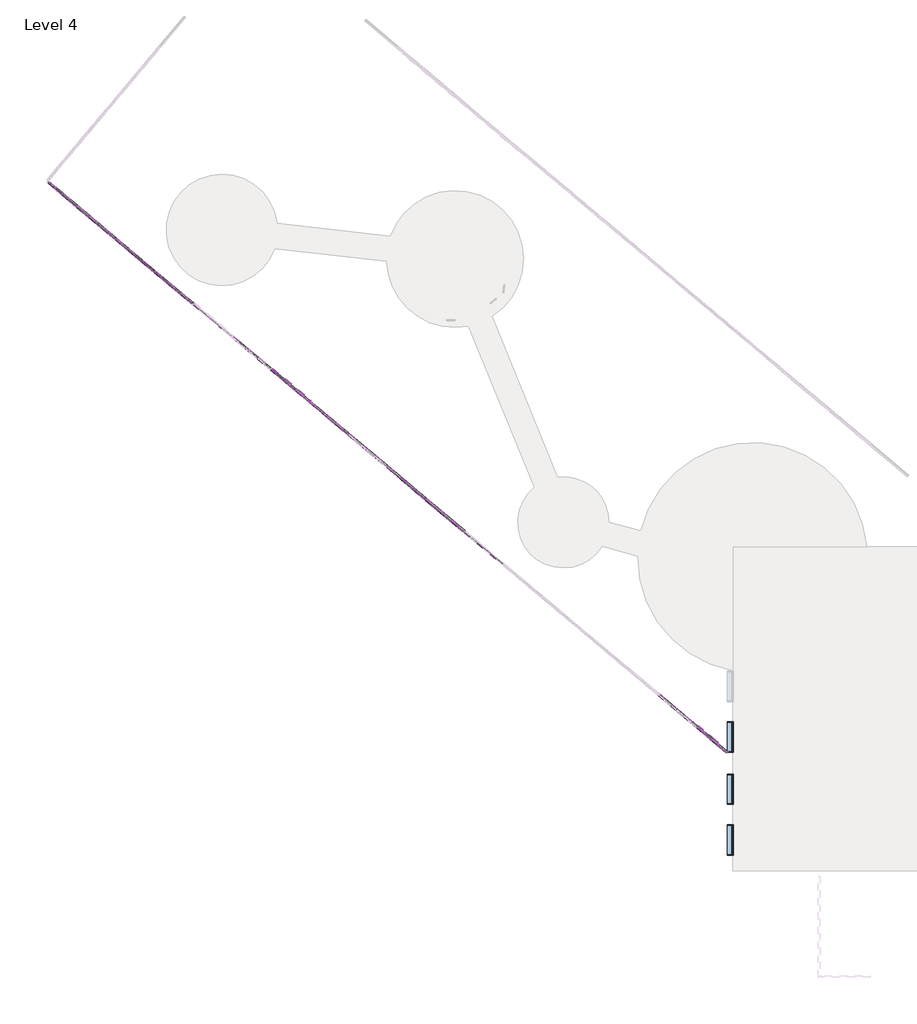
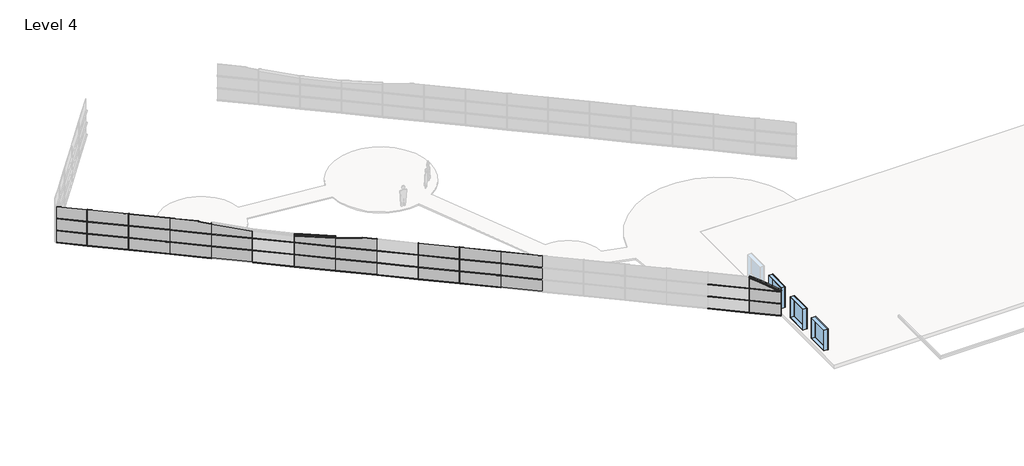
# One storey, part 1 of 4: 75 members, 33 plates, 3 windows.
"""IFC4 building model written with IfcOpenShell, lengths in millimetres."""

from ifc_helpers import new_model, si_unit, origin, place, context, project, spatial, transform, mapped, element, save
from components import member_e6b937b8, member_1b704979, member_245d92fc, member_9d38573e, member_e6a3a933, member_3179f230, member_4b2d0bd8, member_eaba9652, member_6adc840d, member_8e78e238, member_d6eebea3, member_09a87ae0, member_bb8a4726, system_panel_glazed_a2c5a472, system_panel_glazed_5afc4ae2, system_panel_glazed_ccf48815, system_panel_glazed_ab809f82, system_panel_glazed_38bebc52, system_panel_glazed_819572de, system_panel_glazed_9da0f904, system_panel_glazed_20312a47, fixed_6_x_6_52427b03

model = new_model("IFC4")

# Units and contexts
model_context = context("Model", 3, world=origin())
ifc_project = project(units=[si_unit("LENGTHUNIT", "METRE", prefix="MILLI")], contexts=[model_context])

# Site, building, storey
site = spatial("IfcSite", under=ifc_project)
building = spatial("IfcBuilding", under=site)
storey = spatial("IfcBuildingStorey", under=building, Name="Level 4", Elevation=9144.0)

# Members
placement = place(None, origin())
member_shape = member_e6b937b8(model_context)
element("IfcMember", 1, ObjectType="Rectangular Mullion : 1.5\" x 2.5\" rectangular", at=placement, inside=storey, context=model_context, shape_type="MappedRepresentation", body=[
    mapped(member_shape, transform((-19936.684019, -451.3297403, 10400.7444177), x_axis=(-0.76604444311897, 0.6427876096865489, 0.0), y_axis=(-0.6427876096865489, -0.76604444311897, 0.0), z_axis=(0.0, 0.0, 1.0))),
])
element("IfcMember", 2, ObjectType="Rectangular Mullion : 1.5\" x 2.5\" rectangular", at=placement, inside=storey, context=model_context, shape_type="MappedRepresentation", body=[
    mapped(member_shape, transform((-33946.1047947, 11303.9700657, 10400.7444177), x_axis=(-0.76604444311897, 0.6427876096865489, 0.0), y_axis=(-0.6427876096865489, -0.76604444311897, 0.0), z_axis=(0.0, 0.0, 1.0))),
])
element("IfcMember", 3, ObjectType="Rectangular Mullion : 1.5\" x 2.5\" rectangular", at=placement, inside=storey, context=model_context, shape_type="MappedRepresentation", body=[
    mapped(member_shape, transform((-36281.0082574, 13263.1867, 10400.7444177), x_axis=(-0.76604444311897, 0.6427876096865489, 0.0), y_axis=(-0.6427876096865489, -0.76604444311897, 0.0), z_axis=(0.0, 0.0, 1.0))),
])
element("IfcMember", 4, ObjectType="Rectangular Mullion : 1.5\" x 2.5\" rectangular", at=placement, inside=storey, context=model_context, shape_type="MappedRepresentation", body=[
    mapped(member_shape, transform((-38615.91172, 15222.4033343, 10400.7444177), x_axis=(-0.76604444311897, 0.6427876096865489, 0.0), y_axis=(-0.6427876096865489, -0.76604444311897, 0.0), z_axis=(0.0, 0.0, 1.0))),
])
element("IfcMember", 5, ObjectType="Rectangular Mullion : 1.5\" x 2.5\" rectangular", at=placement, inside=storey, context=model_context, shape_type="MappedRepresentation", body=[
    mapped(member_shape, transform((-40950.8151826, 17181.6199687, 10400.7444177), x_axis=(-0.76604444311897, 0.6427876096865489, 0.0), y_axis=(-0.6427876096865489, -0.76604444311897, 0.0), z_axis=(0.0, 0.0, 1.0))),
])
element("IfcMember", 6, ObjectType="Rectangular Mullion : 1.5\" x 2.5\" rectangular", at=placement, inside=storey, context=model_context, shape_type="MappedRepresentation", body=[
    mapped(member_shape, transform((-43285.7186452, 19140.836603, 10400.7444177), x_axis=(-0.76604444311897, 0.6427876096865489, 0.0), y_axis=(-0.6427876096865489, -0.76604444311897, 0.0), z_axis=(0.0, 0.0, 1.0))),
])
element("IfcMember", 7, ObjectType="Rectangular Mullion : 1.5\" x 2.5\" rectangular", at=placement, inside=storey, context=model_context, shape_type="MappedRepresentation", body=[
    mapped(member_shape, transform((-19936.684019, -451.3297403, 11467.5444177), x_axis=(-0.76604444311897, 0.6427876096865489, 0.0), y_axis=(-0.6427876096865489, -0.76604444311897, 0.0), z_axis=(0.0, 0.0, 1.0))),
])
element("IfcMember", 8, ObjectType="Rectangular Mullion : 1.5\" x 2.5\" rectangular", at=placement, inside=storey, context=model_context, shape_type="MappedRepresentation", body=[
    mapped(member_shape, transform((-33946.1047947, 11303.9700657, 11467.5444177), x_axis=(-0.76604444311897, 0.6427876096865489, 0.0), y_axis=(-0.6427876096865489, -0.76604444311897, 0.0), z_axis=(0.0, 0.0, 1.0))),
])
element("IfcMember", 9, ObjectType="Rectangular Mullion : 1.5\" x 2.5\" rectangular", at=placement, inside=storey, context=model_context, shape_type="MappedRepresentation", body=[
    mapped(member_shape, transform((-36281.0082574, 13263.1867, 11467.5444177), x_axis=(-0.76604444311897, 0.6427876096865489, 0.0), y_axis=(-0.6427876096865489, -0.76604444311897, 0.0), z_axis=(0.0, 0.0, 1.0))),
])
element("IfcMember", 10, ObjectType="Rectangular Mullion : 1.5\" x 2.5\" rectangular", at=placement, inside=storey, context=model_context, shape_type="MappedRepresentation", body=[
    mapped(member_shape, transform((-38615.91172, 15222.4033343, 11467.5444177), x_axis=(-0.76604444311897, 0.6427876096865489, 0.0), y_axis=(-0.6427876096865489, -0.76604444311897, 0.0), z_axis=(0.0, 0.0, 1.0))),
])
element("IfcMember", 11, ObjectType="Rectangular Mullion : 1.5\" x 2.5\" rectangular", at=placement, inside=storey, context=model_context, shape_type="MappedRepresentation", body=[
    mapped(member_shape, transform((-33946.1047947, 11303.9700657, 12534.3444177), x_axis=(-0.76604444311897, 0.6427876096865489, 0.0), y_axis=(-0.6427876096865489, -0.76604444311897, 0.0), z_axis=(0.0, 0.0, 1.0))),
])
element("IfcMember", 12, ObjectType="Rectangular Mullion : 1.5\" x 2.5\" rectangular", at=placement, inside=storey, context=model_context, shape_type="MappedRepresentation", body=[
    mapped(member_shape, transform((-36281.0082574, 13263.1867, 12534.3444177), x_axis=(-0.76604444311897, 0.6427876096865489, 0.0), y_axis=(-0.6427876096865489, -0.76604444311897, 0.0), z_axis=(0.0, 0.0, 1.0))),
])
element("IfcMember", 13, ObjectType="Rectangular Mullion : 1.5\" x 2.5\" rectangular", at=placement, inside=storey, context=model_context, shape_type="MappedRepresentation", body=[
    mapped(member_shape, transform((-43285.7186452, 19140.836603, 11467.5444177), x_axis=(-0.76604444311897, 0.6427876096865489, 0.0), y_axis=(-0.6427876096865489, -0.76604444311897, 0.0), z_axis=(0.0, 0.0, 1.0))),
])
element("IfcMember", 14, ObjectType="Rectangular Mullion : 1.5\" x 2.5\" rectangular", at=placement, inside=storey, context=model_context, shape_type="MappedRepresentation", body=[
    mapped(member_shape, transform((-40950.8151826, 17181.6199687, 11467.5444177), x_axis=(-0.76604444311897, 0.6427876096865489, 0.0), y_axis=(-0.6427876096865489, -0.76604444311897, 0.0), z_axis=(0.0, 0.0, 1.0))),
])
element("IfcMember", 15, ObjectType="Rectangular Mullion : 1.5\" x 2.5\" rectangular", at=placement, inside=storey, context=model_context, shape_type="MappedRepresentation", body=[
    mapped(member_shape, transform((-38615.91172, 15222.4033343, 12534.3444177), x_axis=(-0.76604444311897, 0.6427876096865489, 0.0), y_axis=(-0.6427876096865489, -0.76604444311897, 0.0), z_axis=(0.0, 0.0, 1.0))),
])
element("IfcMember", 16, ObjectType="Rectangular Mullion : 1.5\" x 2.5\" rectangular", at=placement, inside=storey, context=model_context, shape_type="MappedRepresentation", body=[
    mapped(member_shape, transform((-40950.8151826, 17181.6199687, 12534.3444177), x_axis=(-0.76604444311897, 0.6427876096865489, 0.0), y_axis=(-0.6427876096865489, -0.76604444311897, 0.0), z_axis=(0.0, 0.0, 1.0))),
])
element("IfcMember", 17, ObjectType="Rectangular Mullion : 1.5\" x 2.5\" rectangular", at=placement, inside=storey, context=model_context, shape_type="MappedRepresentation", body=[
    mapped(member_shape, transform((-45620.6221079, 21100.0532373, 10400.7444177), x_axis=(-0.76604444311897, 0.6427876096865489, 0.0), y_axis=(-0.6427876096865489, -0.76604444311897, 0.0), z_axis=(0.0, 0.0, 1.0))),
])
element("IfcMember", 18, ObjectType="Rectangular Mullion : 1.5\" x 2.5\" rectangular", at=placement, inside=storey, context=model_context, shape_type="MappedRepresentation", body=[
    mapped(member_shape, transform((-50290.4290331, 25018.486506, 10400.7444177), x_axis=(-0.76604444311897, 0.6427876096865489, 0.0), y_axis=(-0.6427876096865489, -0.76604444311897, 0.0), z_axis=(0.0, 0.0, 1.0))),
])
element("IfcMember", 19, ObjectType="Rectangular Mullion : 1.5\" x 2.5\" rectangular", at=placement, inside=storey, context=model_context, shape_type="MappedRepresentation", body=[
    mapped(member_shape, transform((-52625.3324958, 26977.7031403, 10400.7444177), x_axis=(-0.76604444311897, 0.6427876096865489, 0.0), y_axis=(-0.6427876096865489, -0.76604444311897, 0.0), z_axis=(0.0, 0.0, 1.0))),
])
element("IfcMember", 20, ObjectType="Rectangular Mullion : 1.5\" x 2.5\" rectangular", at=placement, inside=storey, context=model_context, shape_type="MappedRepresentation", body=[
    mapped(member_shape, transform((-54960.2359584, 28936.9197746, 10400.7444177), x_axis=(-0.76604444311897, 0.6427876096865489, 0.0), y_axis=(-0.6427876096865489, -0.76604444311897, 0.0), z_axis=(0.0, 0.0, 1.0))),
])
element("IfcMember", 21, ObjectType="Rectangular Mullion : 1.5\" x 2.5\" rectangular", at=placement, inside=storey, context=model_context, shape_type="MappedRepresentation", body=[
    mapped(member_shape, transform((-57295.139421, 30896.1364089, 10400.7444177), x_axis=(-0.76604444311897, 0.6427876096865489, 0.0), y_axis=(-0.6427876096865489, -0.76604444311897, 0.0), z_axis=(0.0, 0.0, 1.0))),
])
element("IfcMember", 22, ObjectType="Rectangular Mullion : 1.5\" x 2.5\" rectangular", at=placement, inside=storey, context=model_context, shape_type="MappedRepresentation", body=[
    mapped(member_shape, transform((-45620.6221079, 21100.0532373, 11467.5444177), x_axis=(-0.76604444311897, 0.6427876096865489, 0.0), y_axis=(-0.6427876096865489, -0.76604444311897, 0.0), z_axis=(0.0, 0.0, 1.0))),
])
element("IfcMember", 23, ObjectType="Rectangular Mullion : 1.5\" x 2.5\" rectangular", at=placement, inside=storey, context=model_context, shape_type="MappedRepresentation", body=[
    mapped(member_shape, transform((-50290.4290331, 25018.486506, 11467.5444177), x_axis=(-0.76604444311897, 0.6427876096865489, 0.0), y_axis=(-0.6427876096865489, -0.76604444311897, 0.0), z_axis=(0.0, 0.0, 1.0))),
])
element("IfcMember", 24, ObjectType="Rectangular Mullion : 1.5\" x 2.5\" rectangular", at=placement, inside=storey, context=model_context, shape_type="MappedRepresentation", body=[
    mapped(member_shape, transform((-52625.3324958, 26977.7031403, 11467.5444177), x_axis=(-0.76604444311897, 0.6427876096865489, 0.0), y_axis=(-0.6427876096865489, -0.76604444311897, 0.0), z_axis=(0.0, 0.0, 1.0))),
])
element("IfcMember", 25, ObjectType="Rectangular Mullion : 1.5\" x 2.5\" rectangular", at=placement, inside=storey, context=model_context, shape_type="MappedRepresentation", body=[
    mapped(member_shape, transform((-54960.2359584, 28936.9197746, 11467.5444177), x_axis=(-0.76604444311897, 0.6427876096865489, 0.0), y_axis=(-0.6427876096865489, -0.76604444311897, 0.0), z_axis=(0.0, 0.0, 1.0))),
])
element("IfcMember", 26, ObjectType="Rectangular Mullion : 1.5\" x 2.5\" rectangular", at=placement, inside=storey, context=model_context, shape_type="MappedRepresentation", body=[
    mapped(member_shape, transform((-57295.139421, 30896.1364089, 11467.5444177), x_axis=(-0.76604444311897, 0.6427876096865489, 0.0), y_axis=(-0.6427876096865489, -0.76604444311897, 0.0), z_axis=(0.0, 0.0, 1.0))),
])
element("IfcMember", 27, ObjectType="Rectangular Mullion : 1.5\" x 2.5\" rectangular", at=placement, inside=storey, context=model_context, shape_type="MappedRepresentation", body=[
    mapped(member_shape, transform((-52625.3324958, 26977.7031403, 12534.3444177), x_axis=(-0.76604444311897, 0.6427876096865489, 0.0), y_axis=(-0.6427876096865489, -0.76604444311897, 0.0), z_axis=(0.0, 0.0, 1.0))),
])
element("IfcMember", 28, ObjectType="Rectangular Mullion : 1.5\" x 2.5\" rectangular", at=placement, inside=storey, context=model_context, shape_type="MappedRepresentation", body=[
    mapped(member_shape, transform((-54960.2359584, 28936.9197746, 12534.3444177), x_axis=(-0.76604444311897, 0.6427876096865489, 0.0), y_axis=(-0.6427876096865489, -0.76604444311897, 0.0), z_axis=(0.0, 0.0, 1.0))),
])
element("IfcMember", 29, ObjectType="Rectangular Mullion : 1.5\" x 2.5\" rectangular", at=placement, inside=storey, context=model_context, shape_type="MappedRepresentation", body=[
    mapped(member_shape, transform((-57295.139421, 30896.1364089, 12534.3444177), x_axis=(-0.76604444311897, 0.6427876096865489, 0.0), y_axis=(-0.6427876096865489, -0.76604444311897, 0.0), z_axis=(0.0, 0.0, 1.0))),
])
member_2_shape = member_1b704979(model_context)
element("IfcMember", 30, ObjectType="Rectangular Mullion : 1.5\" x 2.5\" rectangular", at=placement, inside=storey, context=model_context, shape_type="MappedRepresentation", body=[
    mapped(member_2_shape, transform((-18129.5386573, -1967.7047467, 9365.6944177), x_axis=(0.76604444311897, -0.6427876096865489, 0.0), y_axis=(-0.6427876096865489, -0.76604444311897, 0.0), z_axis=(0.0, 0.0, -1.0))),
])
element("IfcMember", 31, ObjectType="Rectangular Mullion : 1.5\" x 2.5\" rectangular", at=placement, inside=storey, context=model_context, shape_type="MappedRepresentation", body=[
    mapped(member_2_shape, transform((-18129.5386573, -1967.7047467, 10432.4944177), x_axis=(0.76604444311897, -0.6427876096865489, 0.0), y_axis=(-0.6427876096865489, -0.76604444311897, 0.0), z_axis=(0.0, 0.0, -1.0))),
])
member_3_shape = member_245d92fc(model_context)
element("IfcMember", 32, ObjectType="Rectangular Mullion : 1.5\" x 2.5\" rectangular", at=placement, inside=storey, context=model_context, shape_type="MappedRepresentation", body=[
    mapped(member_3_shape, transform((-19936.684019, -451.3297403, 12504.5952808), x_axis=(-0.76604444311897, 0.6427876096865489, 0.0), y_axis=(-0.6427876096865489, -0.76604444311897, 0.0), z_axis=(0.0, 0.0, 1.0))),
])
member_4_shape = member_9d38573e(model_context)
element("IfcMember", 33, ObjectType="Rectangular Mullion : 1.5\" x 2.5\" rectangular", at=placement, inside=storey, context=model_context, shape_type="MappedRepresentation", body=[
    mapped(member_4_shape, transform((-45620.6221079, 21100.0532373, 12145.301661), x_axis=(-0.76604444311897, 0.6427876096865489, 0.0), y_axis=(-0.6427876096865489, -0.76604444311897, 0.0), z_axis=(0.0, 0.0, 1.0))),
])
member_5_shape = member_e6a3a933(model_context)
element("IfcMember", 34, ObjectType="Rectangular Mullion : 1.5\" x 2.5\" rectangular", at=placement, inside=storey, context=model_context, shape_type="MappedRepresentation", body=[
    mapped(member_5_shape, transform((-50290.4290331, 25018.486506, 12440.8181166), x_axis=(-0.76604444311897, 0.6427876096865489, 0.0), y_axis=(-0.6427876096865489, -0.76604444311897, 0.0), z_axis=(0.0, 0.0, 1.0))),
])
member_6_shape = member_3179f230(model_context)
element("IfcMember", 35, ObjectType="Rectangular Mullion : 1.5\" x 2.5\" rectangular", at=placement, inside=storey, context=model_context, shape_type="MappedRepresentation", body=[
    mapped(member_6_shape, transform((-18129.5386573, -1967.7047467, 11499.2944177), x_axis=(0.76604444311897, -0.6427876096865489, 0.0), y_axis=(-0.6427876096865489, -0.76604444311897, 0.0), z_axis=(0.0, 0.0, -1.0))),
])
member_7_shape = member_4b2d0bd8(model_context)
element("IfcMember", 36, ObjectType="Rectangular Mullion : 1.5\" x 2.5\" rectangular", at=placement, inside=storey, context=model_context, shape_type="MappedRepresentation", body=[
    mapped(member_7_shape, transform((-43285.7186452, 19140.836603, 12327.8399175), x_axis=(-0.76604444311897, 0.6427876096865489, 0.0), y_axis=(-0.6427876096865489, -0.76604444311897, 0.0), z_axis=(0.0, 0.0, 1.0))),
])
member_8_shape = member_eaba9652(model_context)
element("IfcMember", 37, ObjectType="Rectangular Mullion : 2.5\" x 5\" rectangular", at=placement, inside=storey, context=model_context, shape_type="MappedRepresentation", body=[
    mapped(member_8_shape, transform((-19936.684019, -451.3297403, 9365.6944177), x_axis=(0.0, 0.0, 1.0), y_axis=(-0.6427876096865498, -0.7660444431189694, 0.0), z_axis=(0.7660444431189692, -0.6427876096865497, 0.0))),
])
element("IfcMember", 38, ObjectType="Rectangular Mullion : 2.5\" x 5\" rectangular", at=placement, inside=storey, context=model_context, shape_type="MappedRepresentation", body=[
    mapped(member_8_shape, transform((-33946.1047947, 11303.9700657, 9365.6944177), x_axis=(0.0, 0.0, 1.0), y_axis=(-0.642787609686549, -0.76604444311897, 0.0), z_axis=(0.7660444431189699, -0.6427876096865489, 0.0))),
])
element("IfcMember", 39, ObjectType="Rectangular Mullion : 2.5\" x 5\" rectangular", at=placement, inside=storey, context=model_context, shape_type="MappedRepresentation", body=[
    mapped(member_8_shape, transform((-36281.0082574, 13263.1867, 9365.6944177), x_axis=(0.0, 0.0, 1.0), y_axis=(-0.642787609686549, -0.76604444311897, 0.0), z_axis=(0.7660444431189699, -0.6427876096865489, 0.0))),
])
element("IfcMember", 40, ObjectType="Rectangular Mullion : 2.5\" x 5\" rectangular", at=placement, inside=storey, context=model_context, shape_type="MappedRepresentation", body=[
    mapped(member_8_shape, transform((-38615.91172, 15222.4033343, 9365.6944177), x_axis=(0.0, 0.0, 1.0), y_axis=(-0.642787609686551, -0.7660444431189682, 0.0), z_axis=(0.7660444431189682, -0.642787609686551, 0.0))),
])
element("IfcMember", 41, ObjectType="Rectangular Mullion : 2.5\" x 5\" rectangular", at=placement, inside=storey, context=model_context, shape_type="MappedRepresentation", body=[
    mapped(member_8_shape, transform((-40950.8151826, 17181.6199687, 9365.6944177), x_axis=(0.0, 0.0, 1.0), y_axis=(-0.642787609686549, -0.76604444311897, 0.0), z_axis=(0.7660444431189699, -0.6427876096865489, 0.0))),
])
element("IfcMember", 42, ObjectType="Rectangular Mullion : 2.5\" x 5\" rectangular", at=placement, inside=storey, context=model_context, shape_type="MappedRepresentation", body=[
    mapped(member_8_shape, transform((-43285.7186452, 19140.836603, 9365.6944177), x_axis=(0.0, 0.0, 1.0), y_axis=(-0.6427876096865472, -0.7660444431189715, 0.0), z_axis=(0.7660444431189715, -0.6427876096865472, 0.0))),
])
element("IfcMember", 43, ObjectType="Rectangular Mullion : 2.5\" x 5\" rectangular", at=placement, inside=storey, context=model_context, shape_type="MappedRepresentation", body=[
    mapped(member_8_shape, transform((-19936.684019, -451.3297403, 10432.4944177), x_axis=(0.0, 0.0, 1.0), y_axis=(-0.6427876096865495, -0.7660444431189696, 0.0), z_axis=(0.7660444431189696, -0.6427876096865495, 0.0))),
])
element("IfcMember", 44, ObjectType="Rectangular Mullion : 2.5\" x 5\" rectangular", at=placement, inside=storey, context=model_context, shape_type="MappedRepresentation", body=[
    mapped(member_8_shape, transform((-33946.1047947, 11303.9700657, 10432.4944177), x_axis=(0.0, 0.0, 1.0), y_axis=(-0.642787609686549, -0.76604444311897, 0.0), z_axis=(0.7660444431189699, -0.6427876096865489, 0.0))),
])
element("IfcMember", 45, ObjectType="Rectangular Mullion : 2.5\" x 5\" rectangular", at=placement, inside=storey, context=model_context, shape_type="MappedRepresentation", body=[
    mapped(member_8_shape, transform((-36281.0082574, 13263.1867, 10432.4944177), x_axis=(0.0, 0.0, 1.0), y_axis=(-0.6427876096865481, -0.7660444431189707, 0.0), z_axis=(0.7660444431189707, -0.6427876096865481, 0.0))),
])
element("IfcMember", 46, ObjectType="Rectangular Mullion : 2.5\" x 5\" rectangular", at=placement, inside=storey, context=model_context, shape_type="MappedRepresentation", body=[
    mapped(member_8_shape, transform((-38615.91172, 15222.4033343, 10432.4944177), x_axis=(0.0, 0.0, 1.0), y_axis=(-0.6427876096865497, -0.7660444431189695, 0.0), z_axis=(0.7660444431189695, -0.6427876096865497, 0.0))),
])
element("IfcMember", 47, ObjectType="Rectangular Mullion : 2.5\" x 5\" rectangular", at=placement, inside=storey, context=model_context, shape_type="MappedRepresentation", body=[
    mapped(member_8_shape, transform((-40950.8151826, 17181.6199687, 10432.4944177), x_axis=(0.0, 0.0, 1.0), y_axis=(-0.64278760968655, -0.766044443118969, 0.0), z_axis=(0.766044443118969, -0.64278760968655, 0.0))),
])
element("IfcMember", 48, ObjectType="Rectangular Mullion : 2.5\" x 5\" rectangular", at=placement, inside=storey, context=model_context, shape_type="MappedRepresentation", body=[
    mapped(member_8_shape, transform((-43285.7186452, 19140.836603, 10432.4944177), x_axis=(0.0, 0.0, 1.0), y_axis=(-0.642787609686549, -0.76604444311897, 0.0), z_axis=(0.7660444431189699, -0.6427876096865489, 0.0))),
])
element("IfcMember", 49, ObjectType="Rectangular Mullion : 2.5\" x 5\" rectangular", at=placement, inside=storey, context=model_context, shape_type="MappedRepresentation", body=[
    mapped(member_8_shape, transform((-19936.684019, -451.3297403, 11499.2944177), x_axis=(0.0, 0.0, 1.0), y_axis=(-0.6427876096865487, -0.7660444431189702, 0.0), z_axis=(0.7660444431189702, -0.6427876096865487, 0.0))),
])
element("IfcMember", 50, ObjectType="Rectangular Mullion : 2.5\" x 5\" rectangular", at=placement, inside=storey, context=model_context, shape_type="MappedRepresentation", body=[
    mapped(member_8_shape, transform((-33946.1047947, 11303.9700657, 11499.2944177), x_axis=(0.0, 0.0, 1.0), y_axis=(-0.6427876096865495, -0.7660444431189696, 0.0), z_axis=(0.7660444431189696, -0.6427876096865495, 0.0))),
])
element("IfcMember", 51, ObjectType="Rectangular Mullion : 2.5\" x 5\" rectangular", at=placement, inside=storey, context=model_context, shape_type="MappedRepresentation", body=[
    mapped(member_8_shape, transform((-36281.0082574, 13263.1867, 11499.2944177), x_axis=(0.0, 0.0, 1.0), y_axis=(-0.6427876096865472, -0.7660444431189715, 0.0), z_axis=(0.7660444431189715, -0.6427876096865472, 0.0))),
])
element("IfcMember", 52, ObjectType="Rectangular Mullion : 2.5\" x 5\" rectangular", at=placement, inside=storey, context=model_context, shape_type="MappedRepresentation", body=[
    mapped(member_8_shape, transform((-38615.91172, 15222.4033343, 11499.2944177), x_axis=(0.0, 0.0, 1.0), y_axis=(-0.6427876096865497, -0.7660444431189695, 0.0), z_axis=(0.7660444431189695, -0.6427876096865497, 0.0))),
])
element("IfcMember", 53, ObjectType="Rectangular Mullion : 2.5\" x 5\" rectangular", at=placement, inside=storey, context=model_context, shape_type="MappedRepresentation", body=[
    mapped(member_8_shape, transform((-40950.8151826, 17181.6199687, 11499.2944177), x_axis=(0.0, 0.0, 1.0), y_axis=(-0.64278760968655, -0.766044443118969, 0.0), z_axis=(0.766044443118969, -0.64278760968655, 0.0))),
])
element("IfcMember", 54, ObjectType="Rectangular Mullion : 2.5\" x 5\" rectangular", at=placement, inside=storey, context=model_context, shape_type="MappedRepresentation", body=[
    mapped(member_8_shape, transform((-43285.7186452, 19140.836603, 11499.2944177), x_axis=(0.0, 0.0, 1.0), y_axis=(-0.6427876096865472, -0.7660444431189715, 0.0), z_axis=(0.7660444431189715, -0.6427876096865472, 0.0))),
])
element("IfcMember", 55, ObjectType="Rectangular Mullion : 2.5\" x 5\" rectangular", at=placement, inside=storey, context=model_context, shape_type="MappedRepresentation", body=[
    mapped(member_8_shape, transform((-45620.6221079, 21100.0532373, 9365.6944177), x_axis=(0.0, 0.0, 1.0), y_axis=(-0.64278760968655, -0.766044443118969, 0.0), z_axis=(0.766044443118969, -0.64278760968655, 0.0))),
])
element("IfcMember", 56, ObjectType="Rectangular Mullion : 2.5\" x 5\" rectangular", at=placement, inside=storey, context=model_context, shape_type="MappedRepresentation", body=[
    mapped(member_8_shape, transform((-50290.4290331, 25018.486506, 9365.6944177), x_axis=(0.0, 0.0, 1.0), y_axis=(-0.6427876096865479, -0.7660444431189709, 0.0), z_axis=(0.7660444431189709, -0.6427876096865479, 0.0))),
])
element("IfcMember", 57, ObjectType="Rectangular Mullion : 2.5\" x 5\" rectangular", at=placement, inside=storey, context=model_context, shape_type="MappedRepresentation", body=[
    mapped(member_8_shape, transform((-52625.3324958, 26977.7031403, 9365.6944177), x_axis=(0.0, 0.0, 1.0), y_axis=(-0.6427876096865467, -0.7660444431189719, 0.0), z_axis=(0.7660444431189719, -0.6427876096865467, 0.0))),
])
element("IfcMember", 58, ObjectType="Rectangular Mullion : 2.5\" x 5\" rectangular", at=placement, inside=storey, context=model_context, shape_type="MappedRepresentation", body=[
    mapped(member_8_shape, transform((-54960.2359584, 28936.9197746, 9365.6944177), x_axis=(0.0, 0.0, 1.0), y_axis=(-0.6427876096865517, -0.7660444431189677, 0.0), z_axis=(0.7660444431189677, -0.6427876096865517, 0.0))),
])
element("IfcMember", 59, ObjectType="Rectangular Mullion : 2.5\" x 5\" rectangular", at=placement, inside=storey, context=model_context, shape_type="MappedRepresentation", body=[
    mapped(member_8_shape, transform((-45620.6221079, 21100.0532373, 10432.4944177), x_axis=(0.0, 0.0, 1.0), y_axis=(-0.642787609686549, -0.76604444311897, 0.0), z_axis=(0.7660444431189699, -0.6427876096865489, 0.0))),
])
element("IfcMember", 60, ObjectType="Rectangular Mullion : 2.5\" x 5\" rectangular", at=placement, inside=storey, context=model_context, shape_type="MappedRepresentation", body=[
    mapped(member_8_shape, transform((-50290.4290331, 25018.486506, 10432.4944177), x_axis=(0.0, 0.0, 1.0), y_axis=(-0.6427876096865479, -0.7660444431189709, 0.0), z_axis=(0.7660444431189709, -0.6427876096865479, 0.0))),
])
element("IfcMember", 61, ObjectType="Rectangular Mullion : 2.5\" x 5\" rectangular", at=placement, inside=storey, context=model_context, shape_type="MappedRepresentation", body=[
    mapped(member_8_shape, transform((-52625.3324958, 26977.7031403, 10432.4944177), x_axis=(0.0, 0.0, 1.0), y_axis=(-0.6427876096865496, -0.7660444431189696, 0.0), z_axis=(0.7660444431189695, -0.6427876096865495, 0.0))),
])
element("IfcMember", 62, ObjectType="Rectangular Mullion : 2.5\" x 5\" rectangular", at=placement, inside=storey, context=model_context, shape_type="MappedRepresentation", body=[
    mapped(member_8_shape, transform((-54960.2359584, 28936.9197746, 10432.4944177), x_axis=(0.0, 0.0, 1.0), y_axis=(-0.642787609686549, -0.76604444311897, 0.0), z_axis=(0.7660444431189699, -0.6427876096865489, 0.0))),
])
element("IfcMember", 63, ObjectType="Rectangular Mullion : 2.5\" x 5\" rectangular", at=placement, inside=storey, context=model_context, shape_type="MappedRepresentation", body=[
    mapped(member_8_shape, transform((-45620.6221079, 21100.0532373, 11499.2944177), x_axis=(0.0, 0.0, 1.0), y_axis=(-0.642787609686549, -0.76604444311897, 0.0), z_axis=(0.7660444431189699, -0.6427876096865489, 0.0))),
])
element("IfcMember", 64, ObjectType="Rectangular Mullion : 2.5\" x 5\" rectangular", at=placement, inside=storey, context=model_context, shape_type="MappedRepresentation", body=[
    mapped(member_8_shape, transform((-50290.4290331, 25018.486506, 11499.2944177), x_axis=(0.0, 0.0, 1.0), y_axis=(-0.6427876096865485, -0.7660444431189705, 0.0), z_axis=(0.7660444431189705, -0.6427876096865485, 0.0))),
])
element("IfcMember", 65, ObjectType="Rectangular Mullion : 2.5\" x 5\" rectangular", at=placement, inside=storey, context=model_context, shape_type="MappedRepresentation", body=[
    mapped(member_8_shape, transform((-52625.3324958, 26977.7031403, 11499.2944177), x_axis=(0.0, 0.0, 1.0), y_axis=(-0.642787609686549, -0.76604444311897, 0.0), z_axis=(0.7660444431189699, -0.6427876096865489, 0.0))),
])
element("IfcMember", 66, ObjectType="Rectangular Mullion : 2.5\" x 5\" rectangular", at=placement, inside=storey, context=model_context, shape_type="MappedRepresentation", body=[
    mapped(member_8_shape, transform((-54960.2359584, 28936.9197746, 11499.2944177), x_axis=(0.0, 0.0, 1.0), y_axis=(-0.642787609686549, -0.76604444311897, 0.0), z_axis=(0.7660444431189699, -0.6427876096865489, 0.0))),
])
member_9_shape = member_6adc840d(model_context)
element("IfcMember", 67, ObjectType="Rectangular Mullion : 2.5\" x 5\" rectangular", at=placement, inside=storey, context=model_context, shape_type="MappedRepresentation", body=[
    mapped(member_9_shape, transform((-18158.7249506, -1943.2145388, 9365.6944177), x_axis=(0.0, 0.0, 1.0), y_axis=(-0.6427876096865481, -0.7660444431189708, 0.0), z_axis=(0.7660444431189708, -0.6427876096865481, 0.0))),
])
element("IfcMember", 68, ObjectType="Rectangular Mullion : 2.5\" x 5\" rectangular", at=placement, inside=storey, context=model_context, shape_type="MappedRepresentation", body=[
    mapped(member_9_shape, transform((-18158.7249506, -1943.2145388, 10432.4944177), x_axis=(0.0, 0.0, 1.0), y_axis=(-0.6427876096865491, -0.7660444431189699, 0.0), z_axis=(0.7660444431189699, -0.6427876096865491, 0.0))),
])
element("IfcMember", 69, ObjectType="Rectangular Mullion : 2.5\" x 5\" rectangular", at=placement, inside=storey, context=model_context, shape_type="MappedRepresentation", body=[
    mapped(member_9_shape, transform((-18158.7249506, -1943.2145388, 11499.2944177), x_axis=(0.0, 0.0, 1.0), y_axis=(-0.6427876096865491, -0.7660444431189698, 0.0), z_axis=(0.7660444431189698, -0.6427876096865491, 0.0))),
])
member_10_shape = member_8e78e238(model_context)
element("IfcMember", 70, ObjectType="Rectangular Mullion : 2.5\" x 5\" rectangular", at=placement, inside=storey, context=model_context, shape_type="MappedRepresentation", body=[
    mapped(member_10_shape, transform((-57295.139421, 30896.1364089, 9365.6944177), x_axis=(0.0, 0.0, 1.0), y_axis=(-0.6427876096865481, -0.7660444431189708, 0.0), z_axis=(0.7660444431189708, -0.6427876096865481, 0.0))),
])
element("IfcMember", 71, ObjectType="Rectangular Mullion : 2.5\" x 5\" rectangular", at=placement, inside=storey, context=model_context, shape_type="MappedRepresentation", body=[
    mapped(member_10_shape, transform((-57295.139421, 30896.1364089, 10432.4944177), x_axis=(0.0, 0.0, 1.0), y_axis=(-0.6427876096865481, -0.7660444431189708, 0.0), z_axis=(0.7660444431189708, -0.6427876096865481, 0.0))),
])
element("IfcMember", 72, ObjectType="Rectangular Mullion : 2.5\" x 5\" rectangular", at=placement, inside=storey, context=model_context, shape_type="MappedRepresentation", body=[
    mapped(member_10_shape, transform((-57295.139421, 30896.1364089, 11499.2944177), x_axis=(0.0, 0.0, 1.0), y_axis=(-0.6427876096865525, -0.7660444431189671, 0.0), z_axis=(0.7660444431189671, -0.6427876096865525, 0.0))),
])
member_11_shape = member_d6eebea3(model_context)
element("IfcMember", 73, ObjectType="V Corner Mullion : 5\" V Corner", at=placement, inside=storey, context=model_context, shape_type="MappedRepresentation", body=[
    mapped(member_11_shape, transform((-18129.5386573, -1967.7047467, 11528.4454611), x_axis=(0.3013718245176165, -0.25288098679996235, 0.919361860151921), y_axis=(-0.6427876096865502, -0.766044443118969, 0.0), z_axis=(0.7042720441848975, -0.5909544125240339, -0.393412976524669))),
])
member_12_shape = member_09a87ae0(model_context)
element("IfcMember", 74, ObjectType="V Corner Mullion : 5\" V Corner", at=placement, inside=storey, context=model_context, shape_type="MappedRepresentation", body=[
    mapped(member_12_shape, transform((-19280.8778687, -1001.6164391, 12171.5943549), x_axis=(0.2777045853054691, -0.2330218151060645, 0.9319769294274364), y_axis=(-0.6427876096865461, -0.7660444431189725, 0.0), z_axis=(0.7139357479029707, -0.5990632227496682, -0.36251758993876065))),
])
member_13_shape = member_bb8a4726(model_context)
element("IfcMember", 75, ObjectType="V Corner Mullion : 5\" V Corner", at=placement, inside=storey, context=model_context, shape_type="MappedRepresentation", body=[
    mapped(member_13_shape, transform((-43285.7186452, 19140.836603, 12327.8399175), x_axis=(-0.04579472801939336, 0.03842633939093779, 0.9982115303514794), y_axis=(-0.6427876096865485, -0.7660444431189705, 0.0), z_axis=(0.7646743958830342, -0.6416380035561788, 0.05978077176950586))),
])

# Plates
system_panel_glazed_shape = system_panel_glazed_a2c5a472(model_context)
element("IfcPlate", 76, ObjectType="System Panel : Glazed", at=placement, inside=storey, context=model_context, shape_type="MappedRepresentation", body=[
    mapped(system_panel_glazed_shape, transform((-32778.6530634, 10324.3617485, 9397.4444177), x_axis=(-0.76604444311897, 0.6427876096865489, 0.0), y_axis=(-0.6427876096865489, -0.76604444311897, 0.0), z_axis=(0.0, 0.0, 1.0))),
])
element("IfcPlate", 77, ObjectType="System Panel : Glazed", at=placement, inside=storey, context=model_context, shape_type="MappedRepresentation", body=[
    mapped(system_panel_glazed_shape, transform((-35113.5565261, 12283.5783829, 9397.4444177), x_axis=(-0.76604444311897, 0.6427876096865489, 0.0), y_axis=(-0.6427876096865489, -0.76604444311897, 0.0), z_axis=(0.0, 0.0, 1.0))),
])
element("IfcPlate", 78, ObjectType="System Panel : Glazed", at=placement, inside=storey, context=model_context, shape_type="MappedRepresentation", body=[
    mapped(system_panel_glazed_shape, transform((-37448.4599887, 14242.7950172, 9397.4444177), x_axis=(-0.76604444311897, 0.6427876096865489, 0.0), y_axis=(-0.6427876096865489, -0.76604444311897, 0.0), z_axis=(0.0, 0.0, 1.0))),
])
element("IfcPlate", 79, ObjectType="System Panel : Glazed", at=placement, inside=storey, context=model_context, shape_type="MappedRepresentation", body=[
    mapped(system_panel_glazed_shape, transform((-42118.2669139, 18161.2282858, 9397.4444177), x_axis=(-0.76604444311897, 0.6427876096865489, 0.0), y_axis=(-0.6427876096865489, -0.76604444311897, 0.0), z_axis=(0.0, 0.0, 1.0))),
])
element("IfcPlate", 80, ObjectType="System Panel : Glazed", at=placement, inside=storey, context=model_context, shape_type="MappedRepresentation", body=[
    mapped(system_panel_glazed_shape, transform((-44453.1703766, 20120.4449202, 9397.4444177), x_axis=(-0.76604444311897, 0.6427876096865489, 0.0), y_axis=(-0.6427876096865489, -0.76604444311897, 0.0), z_axis=(0.0, 0.0, 1.0))),
])
element("IfcPlate", 81, ObjectType="System Panel : Glazed", at=placement, inside=storey, context=model_context, shape_type="MappedRepresentation", body=[
    mapped(system_panel_glazed_shape, transform((-32778.6530634, 10324.3617485, 10464.2444177), x_axis=(-0.76604444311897, 0.6427876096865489, 0.0), y_axis=(-0.6427876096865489, -0.76604444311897, 0.0), z_axis=(0.0, 0.0, 1.0))),
])
element("IfcPlate", 82, ObjectType="System Panel : Glazed", at=placement, inside=storey, context=model_context, shape_type="MappedRepresentation", body=[
    mapped(system_panel_glazed_shape, transform((-35113.5565261, 12283.5783829, 10464.2444177), x_axis=(-0.76604444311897, 0.6427876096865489, 0.0), y_axis=(-0.6427876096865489, -0.76604444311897, 0.0), z_axis=(0.0, 0.0, 1.0))),
])
element("IfcPlate", 83, ObjectType="System Panel : Glazed", at=placement, inside=storey, context=model_context, shape_type="MappedRepresentation", body=[
    mapped(system_panel_glazed_shape, transform((-37448.4599887, 14242.7950172, 10464.2444177), x_axis=(-0.76604444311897, 0.6427876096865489, 0.0), y_axis=(-0.6427876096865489, -0.76604444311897, 0.0), z_axis=(0.0, 0.0, 1.0))),
])
element("IfcPlate", 84, ObjectType="System Panel : Glazed", at=placement, inside=storey, context=model_context, shape_type="MappedRepresentation", body=[
    mapped(system_panel_glazed_shape, transform((-42118.2669139, 18161.2282858, 10464.2444177), x_axis=(-0.76604444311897, 0.6427876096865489, 0.0), y_axis=(-0.6427876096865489, -0.76604444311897, 0.0), z_axis=(0.0, 0.0, 1.0))),
])
element("IfcPlate", 85, ObjectType="System Panel : Glazed", at=placement, inside=storey, context=model_context, shape_type="MappedRepresentation", body=[
    mapped(system_panel_glazed_shape, transform((-44453.1703766, 20120.4449202, 10464.2444177), x_axis=(-0.76604444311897, 0.6427876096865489, 0.0), y_axis=(-0.6427876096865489, -0.76604444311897, 0.0), z_axis=(0.0, 0.0, 1.0))),
])
element("IfcPlate", 86, ObjectType="System Panel : Glazed", at=placement, inside=storey, context=model_context, shape_type="MappedRepresentation", body=[
    mapped(system_panel_glazed_shape, transform((-32778.6530634, 10324.3617485, 11531.0444177), x_axis=(-0.76604444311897, 0.6427876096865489, 0.0), y_axis=(-0.6427876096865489, -0.76604444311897, 0.0), z_axis=(0.0, 0.0, 1.0))),
])
element("IfcPlate", 87, ObjectType="System Panel : Glazed", at=placement, inside=storey, context=model_context, shape_type="MappedRepresentation", body=[
    mapped(system_panel_glazed_shape, transform((-35113.5565261, 12283.5783829, 11531.0444177), x_axis=(-0.76604444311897, 0.6427876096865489, 0.0), y_axis=(-0.6427876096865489, -0.76604444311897, 0.0), z_axis=(0.0, 0.0, 1.0))),
])
element("IfcPlate", 88, ObjectType="System Panel : Glazed", at=placement, inside=storey, context=model_context, shape_type="MappedRepresentation", body=[
    mapped(system_panel_glazed_shape, transform((-37448.4599887, 14242.7950172, 11531.0444177), x_axis=(-0.76604444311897, 0.6427876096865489, 0.0), y_axis=(-0.6427876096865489, -0.76604444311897, 0.0), z_axis=(0.0, 0.0, 1.0))),
])
element("IfcPlate", 89, ObjectType="System Panel : Glazed", at=placement, inside=storey, context=model_context, shape_type="MappedRepresentation", body=[
    mapped(system_panel_glazed_shape, transform((-49122.9773018, 24038.8781888, 9397.4444177), x_axis=(-0.76604444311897, 0.6427876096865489, 0.0), y_axis=(-0.6427876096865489, -0.76604444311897, 0.0), z_axis=(0.0, 0.0, 1.0))),
])
element("IfcPlate", 90, ObjectType="System Panel : Glazed", at=placement, inside=storey, context=model_context, shape_type="MappedRepresentation", body=[
    mapped(system_panel_glazed_shape, transform((-49122.9773018, 24038.8781888, 10464.2444177), x_axis=(-0.76604444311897, 0.6427876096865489, 0.0), y_axis=(-0.6427876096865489, -0.76604444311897, 0.0), z_axis=(0.0, 0.0, 1.0))),
])
element("IfcPlate", 91, ObjectType="System Panel : Glazed", at=placement, inside=storey, context=model_context, shape_type="MappedRepresentation", body=[
    mapped(system_panel_glazed_shape, transform((-51457.8807644, 25998.0948231, 9397.4444177), x_axis=(-0.76604444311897, 0.6427876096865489, 0.0), y_axis=(-0.6427876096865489, -0.76604444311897, 0.0), z_axis=(0.0, 0.0, 1.0))),
])
element("IfcPlate", 92, ObjectType="System Panel : Glazed", at=placement, inside=storey, context=model_context, shape_type="MappedRepresentation", body=[
    mapped(system_panel_glazed_shape, transform((-51457.8807644, 25998.0948231, 10464.2444177), x_axis=(-0.76604444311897, 0.6427876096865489, 0.0), y_axis=(-0.6427876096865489, -0.76604444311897, 0.0), z_axis=(0.0, 0.0, 1.0))),
])
element("IfcPlate", 93, ObjectType="System Panel : Glazed", at=placement, inside=storey, context=model_context, shape_type="MappedRepresentation", body=[
    mapped(system_panel_glazed_shape, transform((-53792.7842271, 27957.3114575, 9397.4444177), x_axis=(-0.76604444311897, 0.6427876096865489, 0.0), y_axis=(-0.6427876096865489, -0.76604444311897, 0.0), z_axis=(0.0, 0.0, 1.0))),
])
element("IfcPlate", 94, ObjectType="System Panel : Glazed", at=placement, inside=storey, context=model_context, shape_type="MappedRepresentation", body=[
    mapped(system_panel_glazed_shape, transform((-53792.7842271, 27957.3114575, 10464.2444177), x_axis=(-0.76604444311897, 0.6427876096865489, 0.0), y_axis=(-0.6427876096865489, -0.76604444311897, 0.0), z_axis=(0.0, 0.0, 1.0))),
])
element("IfcPlate", 95, ObjectType="System Panel : Glazed", at=placement, inside=storey, context=model_context, shape_type="MappedRepresentation", body=[
    mapped(system_panel_glazed_shape, transform((-53792.7842271, 27957.3114575, 11531.0444177), x_axis=(-0.76604444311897, 0.6427876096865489, 0.0), y_axis=(-0.6427876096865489, -0.76604444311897, 0.0), z_axis=(0.0, 0.0, 1.0))),
])
element("IfcPlate", 96, ObjectType="System Panel : Glazed", at=placement, inside=storey, context=model_context, shape_type="MappedRepresentation", body=[
    mapped(system_panel_glazed_shape, transform((-56127.6876897, 29916.5280918, 9397.4444177), x_axis=(-0.76604444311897, 0.6427876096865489, 0.0), y_axis=(-0.6427876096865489, -0.76604444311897, 0.0), z_axis=(0.0, 0.0, 1.0))),
])
element("IfcPlate", 97, ObjectType="System Panel : Glazed", at=placement, inside=storey, context=model_context, shape_type="MappedRepresentation", body=[
    mapped(system_panel_glazed_shape, transform((-56127.6876897, 29916.5280918, 10464.2444177), x_axis=(-0.76604444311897, 0.6427876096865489, 0.0), y_axis=(-0.6427876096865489, -0.76604444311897, 0.0), z_axis=(0.0, 0.0, 1.0))),
])
element("IfcPlate", 98, ObjectType="System Panel : Glazed", at=placement, inside=storey, context=model_context, shape_type="MappedRepresentation", body=[
    mapped(system_panel_glazed_shape, transform((-56127.6876897, 29916.5280918, 11531.0444177), x_axis=(-0.76604444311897, 0.6427876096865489, 0.0), y_axis=(-0.6427876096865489, -0.76604444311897, 0.0), z_axis=(0.0, 0.0, 1.0))),
])
system_panel_glazed_2_shape = system_panel_glazed_5afc4ae2(model_context)
element("IfcPlate", 99, ObjectType="System Panel : Glazed", at=placement, inside=storey, context=model_context, shape_type="MappedRepresentation", body=[
    mapped(system_panel_glazed_2_shape, transform((-19040.4079115, -1203.3946915, 9397.4444177), x_axis=(-0.76604444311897, 0.6427876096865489, 0.0), y_axis=(-0.6427876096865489, -0.76604444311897, 0.0), z_axis=(0.0, 0.0, 1.0))),
])
element("IfcPlate", 100, ObjectType="System Panel : Glazed", at=placement, inside=storey, context=model_context, shape_type="MappedRepresentation", body=[
    mapped(system_panel_glazed_2_shape, transform((-19040.4079115, -1203.3946915, 10464.2444177), x_axis=(-0.76604444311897, 0.6427876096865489, 0.0), y_axis=(-0.6427876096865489, -0.76604444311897, 0.0), z_axis=(0.0, 0.0, 1.0))),
])
system_panel_glazed_3_shape = system_panel_glazed_ccf48815(model_context)
element("IfcPlate", 101, ObjectType="System Panel : Glazed", at=placement, inside=storey, context=model_context, shape_type="MappedRepresentation", body=[
    mapped(system_panel_glazed_3_shape, transform((-58169.5258086, 31629.8337042, 9397.4444177), x_axis=(-0.76604444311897, 0.6427876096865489, 0.0), y_axis=(-0.6427876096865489, -0.76604444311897, 0.0), z_axis=(0.0, 0.0, 1.0))),
])
element("IfcPlate", 102, ObjectType="System Panel : Glazed", at=placement, inside=storey, context=model_context, shape_type="MappedRepresentation", body=[
    mapped(system_panel_glazed_3_shape, transform((-58169.5258086, 31629.8337042, 10464.2444177), x_axis=(-0.76604444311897, 0.6427876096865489, 0.0), y_axis=(-0.6427876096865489, -0.76604444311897, 0.0), z_axis=(0.0, 0.0, 1.0))),
])
element("IfcPlate", 103, ObjectType="System Panel : Glazed", at=placement, inside=storey, context=model_context, shape_type="MappedRepresentation", body=[
    mapped(system_panel_glazed_3_shape, transform((-58169.5258086, 31629.8337042, 11531.0444177), x_axis=(-0.76604444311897, 0.6427876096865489, 0.0), y_axis=(-0.6427876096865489, -0.76604444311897, 0.0), z_axis=(0.0, 0.0, 1.0))),
])
system_panel_glazed_4_shape = system_panel_glazed_ab809f82(model_context)
element("IfcPlate", 104, ObjectType="System Panel : Glazed", at=placement, inside=storey, context=model_context, shape_type="MappedRepresentation", body=[
    mapped(system_panel_glazed_4_shape, transform((-19098.7484579, -1154.4411605, 11531.0444177), x_axis=(-0.76604444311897, 0.6427876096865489, 0.0), y_axis=(-0.6427876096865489, -0.76604444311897, 0.0), z_axis=(0.0, 0.0, 1.0))),
])
system_panel_glazed_5_shape = system_panel_glazed_38bebc52(model_context)
element("IfcPlate", 105, ObjectType="System Panel : Glazed", at=placement, inside=storey, context=model_context, shape_type="MappedRepresentation", body=[
    mapped(system_panel_glazed_5_shape, transform((-44453.1703766, 20120.4449202, 11531.0444177), x_axis=(-0.76604444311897, 0.6427876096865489, 0.0), y_axis=(-0.6427876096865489, -0.76604444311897, 0.0), z_axis=(0.0, 0.0, 1.0))),
])
system_panel_glazed_6_shape = system_panel_glazed_819572de(model_context)
element("IfcPlate", 106, ObjectType="System Panel : Glazed", at=placement, inside=storey, context=model_context, shape_type="MappedRepresentation", body=[
    mapped(system_panel_glazed_6_shape, transform((-49122.9773018, 24038.8781888, 11531.0444177), x_axis=(-0.76604444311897, 0.6427876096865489, 0.0), y_axis=(-0.6427876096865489, -0.76604444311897, 0.0), z_axis=(0.0, 0.0, 1.0))),
])
system_panel_glazed_7_shape = system_panel_glazed_9da0f904(model_context)
element("IfcPlate", 107, ObjectType="System Panel : Glazed", at=placement, inside=storey, context=model_context, shape_type="MappedRepresentation", body=[
    mapped(system_panel_glazed_7_shape, transform((-51457.8807644, 25998.0948231, 11531.0444177), x_axis=(-0.76604444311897, 0.6427876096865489, 0.0), y_axis=(-0.6427876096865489, -0.76604444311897, 0.0), z_axis=(0.0, 0.0, 1.0))),
])
system_panel_glazed_8_shape = system_panel_glazed_20312a47(model_context)
element("IfcPlate", 108, ObjectType="System Panel : Glazed", at=placement, inside=storey, context=model_context, shape_type="MappedRepresentation", body=[
    mapped(system_panel_glazed_8_shape, transform((-42118.2669139, 18161.2282858, 11531.0444177), x_axis=(-0.76604444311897, 0.6427876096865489, 0.0), y_axis=(-0.6427876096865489, -0.76604444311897, 0.0), z_axis=(0.0, 0.0, 1.0))),
])

# Windows
fixed_6_x_6_shape = fixed_6_x_6_52427b03(model_context)
element("IfcWindow", 109, ObjectType="Fixed : 6' x 6'", at=placement, inside=storey, context=model_context, shape_type="MappedRepresentation", body=[
    mapped(fixed_6_x_6_shape, transform((-17953.3261573, -7285.2504393, 9056.8335849), x_axis=(0.0, -1.0, 0.0), y_axis=(1.0, 0.0, 0.0), z_axis=(0.0, 0.0, 1.0))),
])
element("IfcWindow", 110, ObjectType="Fixed : 6' x 6'", at=placement, inside=storey, context=model_context, shape_type="MappedRepresentation", body=[
    mapped(fixed_6_x_6_shape, transform((-17953.3261573, -4237.2504393, 9056.8335849), x_axis=(0.0, -1.0, 0.0), y_axis=(1.0, 0.0, 0.0), z_axis=(0.0, 0.0, 1.0))),
])
element("IfcWindow", 111, ObjectType="Fixed : 6' x 6'", at=placement, inside=storey, context=model_context, shape_type="MappedRepresentation", body=[
    mapped(fixed_6_x_6_shape, transform((-17953.3261573, -1086.0629393, 9056.8335849), x_axis=(0.0, -1.0, 0.0), y_axis=(1.0, 0.0, 0.0), z_axis=(0.0, 0.0, 1.0))),
])

save(model, "model.ifc")
